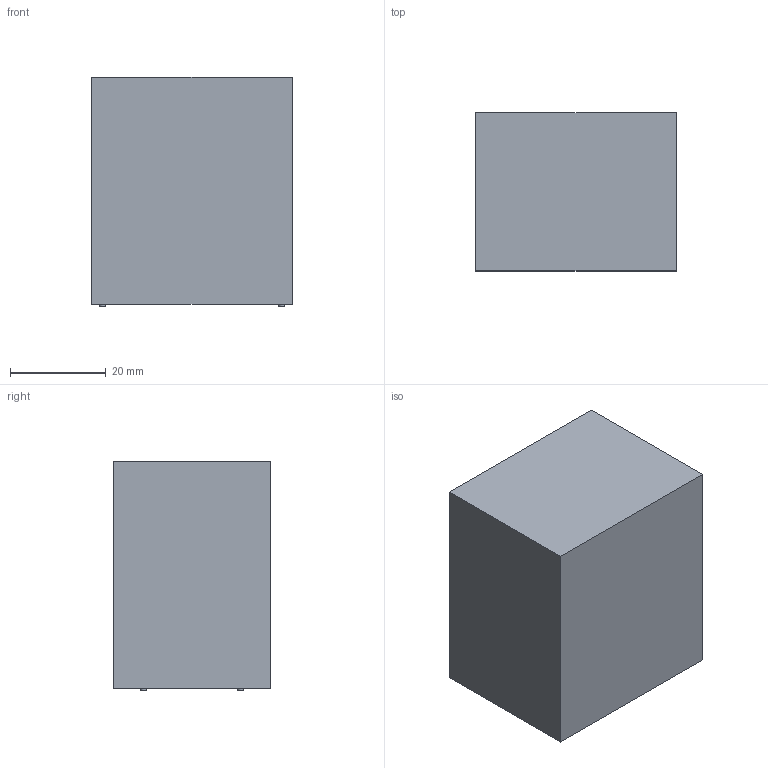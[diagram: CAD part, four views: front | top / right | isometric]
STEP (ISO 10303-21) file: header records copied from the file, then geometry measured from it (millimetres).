
FILE_DESCRIPTION(('Open CASCADE Model'),'2;1');
FILE_NAME('Open CASCADE Shape Model','2026-09-26T00:00:00',('Author'),( 'Open CASCADE'),'Open CASCADE STEP processor 7.9','Open CASCADE 7.9' ,'Unknown');
FILE_SCHEMA(('AUTOMOTIVE_DESIGN { 1 0 10303 214 1 1 1 1 }'));
Length unit declared in the file: millimetre
Products named in the file (6): Open CASCADE STEP translator 7.9 4; Open CASCADE STEP translator 7.9 4.1; Open CASCADE STEP translator 7.9 4.2; Open CASCADE STEP translator 7.9 4.3; Open CASCADE STEP translator 7.9 4.4; Open CASCADE STEP translator 7.9 4.5
Assembly tree (5 placements, depth 2):
  Open CASCADE STEP translator 7.9 4
    Open CASCADE STEP translator 7.9 4.1
    Open CASCADE STEP translator 7.9 4.2
    Open CASCADE STEP translator 7.9 4.3
    Open CASCADE STEP translator 7.9 4.4
    Open CASCADE STEP translator 7.9 4.5
Bounding box: 42 x 33 x 48 mm (x, y, z)
Volume: 65838.2 mm3; surface area: 9916.6 mm2
Topology: 5 solids, 5 shells, 18 faces, 24 edges, 16 vertices
Faces by surface type: plane 14, cylinder 4
Full cylindrical faces by diameter (mm): 1.2 x4
Entity records: 780 total; most frequent: DIRECTION 128, CARTESIAN_POINT 112, LINE 56, VECTOR 56, ORIENTED_EDGE 48, PCURVE 48, DEFINITIONAL_REPRESENTATION 48, AXIS2_PLACEMENT_3D 32
